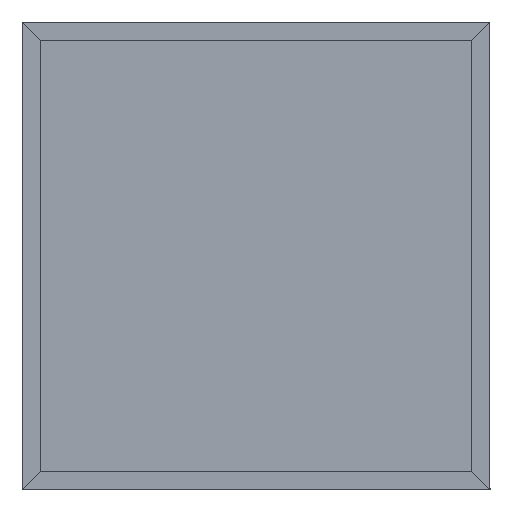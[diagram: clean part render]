
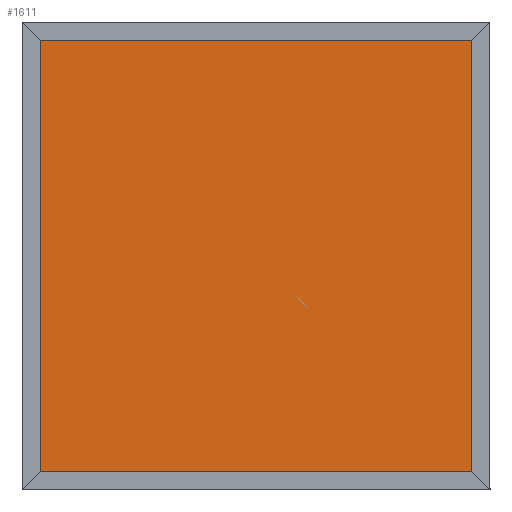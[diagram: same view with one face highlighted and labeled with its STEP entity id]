
A CAD part, front view. The second image highlights one B-rep face of the part: STEP entity #1611.
In plain terms, the highlighted planar face has unit normal (0, -1, 0).
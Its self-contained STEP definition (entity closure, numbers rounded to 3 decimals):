
#1611=ADVANCED_FACE('',(#3061),#2398,.T.);
#2398=PLANE('',#15187);
#3061=FACE_OUTER_BOUND('',#3748,.T.);
#3748=EDGE_LOOP('',(#5260,#5261,#5262,#5263));
#5260=ORIENTED_EDGE('',*,*,#10479,.T.);
#5261=ORIENTED_EDGE('',*,*,#10483,.T.);
#5262=ORIENTED_EDGE('',*,*,#10486,.T.);
#5263=ORIENTED_EDGE('',*,*,#10489,.T.);
#8932=VERTEX_POINT('',#21563);
#8933=VERTEX_POINT('',#21564);
#8936=VERTEX_POINT('',#21572);
#8938=VERTEX_POINT('',#21578);
#10479=EDGE_CURVE('',#8932,#8933,#12465,.T.);
#10483=EDGE_CURVE('',#8933,#8936,#12469,.T.);
#10486=EDGE_CURVE('',#8936,#8938,#12472,.T.);
#10489=EDGE_CURVE('',#8938,#8932,#12475,.T.);
#12465=LINE('',#21562,#13851);
#12469=LINE('',#21571,#13855);
#12472=LINE('',#21577,#13858);
#12475=LINE('',#21583,#13861);
#13851=VECTOR('',#17135,1.);
#13855=VECTOR('',#17141,1.);
#13858=VECTOR('',#17146,1.);
#13861=VECTOR('',#17151,1.);
#15187=AXIS2_PLACEMENT_3D('',#21587,#17157,#17158);
#17135=DIRECTION('',(0.,0.,1.));
#17141=DIRECTION('',(-1.,0.,0.));
#17146=DIRECTION('',(0.,0.,-1.));
#17151=DIRECTION('',(1.,0.,0.));
#17157=DIRECTION('',(0.,-1.,0.));
#17158=DIRECTION('',(0.,0.,-1.));
#21562=CARTESIAN_POINT('',(1185.319,2.705,0.));
#21563=CARTESIAN_POINT('',(1185.319,2.705,-275.798));
#21564=CARTESIAN_POINT('',(1185.319,2.705,283.798));
#21571=CARTESIAN_POINT('',(1193.319,2.705,283.798));
#21572=CARTESIAN_POINT('',(625.724,2.705,283.798));
#21577=CARTESIAN_POINT('',(625.724,2.705,283.798));
#21578=CARTESIAN_POINT('',(625.724,2.705,-275.798));
#21583=CARTESIAN_POINT('',(0.,2.705,-275.798));
#21587=CARTESIAN_POINT('',(0.,2.705,0.));
